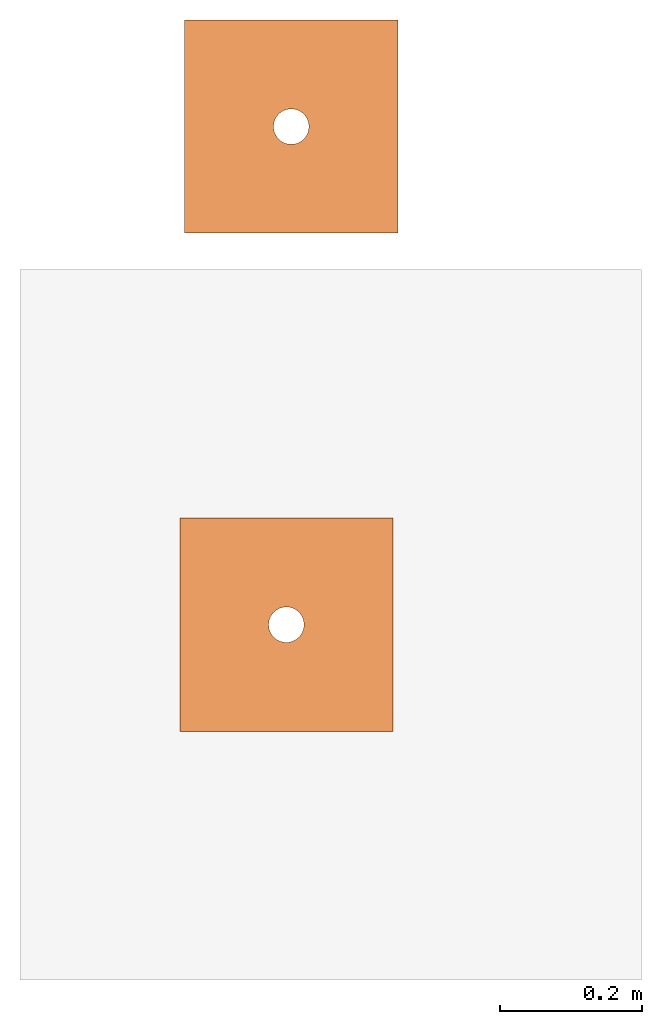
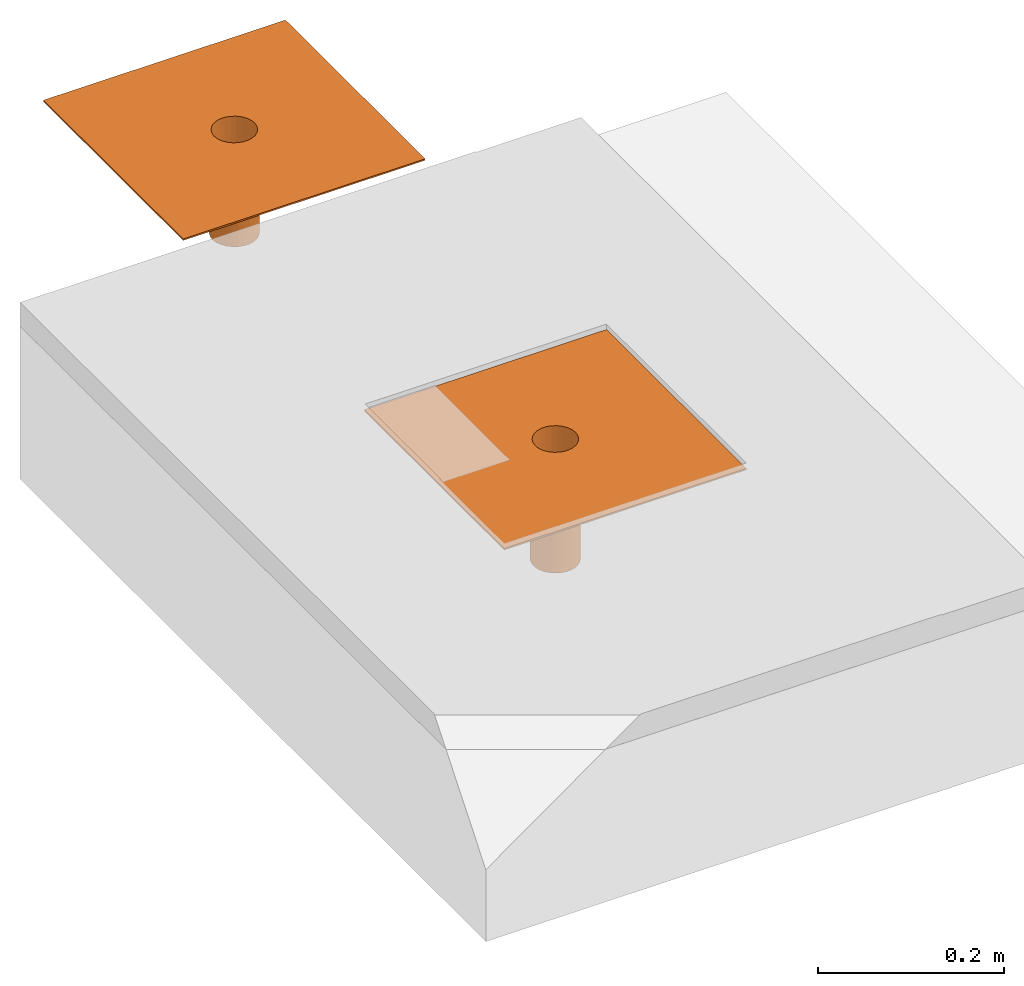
# One storey, part 2 of 3: 2 proxies.
"""IFC2X3 building model written with IfcOpenShell, lengths in metres."""

from ifc_helpers import new_model, entity, si_unit, converted_unit, derived_unit, direction, frame, frame_2d, origin, place, context, subcontext, project, spatial, polyline, circle_curve, parameter, trimmed, segment, composite_curve, hollow_circle, outline, extrude, source, transform, mapped, material, type_object, type_shapes, element, save


model = new_model("IFC2X3")

# Units and contexts
model_context = context("Model", 3, precision=1e-05, world=origin(), true_north=direction((6.123031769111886e-17, 1.0)))
body_context = subcontext(model_context, "Body", "Model", "MODEL_VIEW")
ifc_project = project(units=[si_unit("LENGTHUNIT", "METRE"), si_unit("AREAUNIT", "SQUARE_METRE"), si_unit("VOLUMEUNIT", "CUBIC_METRE"), converted_unit("PLANEANGLEUNIT", "DEGREE", entity("IfcRatioMeasure", 0.017453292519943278), si_unit("PLANEANGLEUNIT", "RADIAN"), dimensions=[0, 0, 0, 0, 0, 0, 0]), si_unit("MASSUNIT", "GRAM", prefix="KILO"), derived_unit("MASSDENSITYUNIT", [(si_unit("MASSUNIT", "GRAM", prefix="KILO"), 1), (si_unit("LENGTHUNIT", "METRE"), -3)]), derived_unit("IONCONCENTRATIONUNIT", [(si_unit("MASSUNIT", "GRAM", prefix="KILO"), 1), (si_unit("LENGTHUNIT", "METRE"), -3)]), derived_unit("MOMENTOFINERTIAUNIT", [(si_unit("LENGTHUNIT", "METRE"), 4)]), si_unit("TIMEUNIT", "SECOND"), si_unit("FREQUENCYUNIT", "HERTZ"), si_unit("THERMODYNAMICTEMPERATUREUNIT", "DEGREE_CELSIUS"), derived_unit("THERMALTRANSMITTANCEUNIT", [(si_unit("MASSUNIT", "GRAM", prefix="KILO"), 1), (si_unit("THERMODYNAMICTEMPERATUREUNIT", "KELVIN"), -1), (si_unit("TIMEUNIT", "SECOND"), -3)]), derived_unit("THERMALCONDUCTANCEUNIT", [(si_unit("MASSUNIT", "GRAM", prefix="KILO"), 1), (si_unit("THERMODYNAMICTEMPERATUREUNIT", "KELVIN"), -1), (si_unit("TIMEUNIT", "SECOND"), -3), (si_unit("LENGTHUNIT", "METRE"), 1)]), derived_unit("VOLUMETRICFLOWRATEUNIT", [(si_unit("LENGTHUNIT", "METRE"), 3), (si_unit("TIMEUNIT", "SECOND"), -1)]), derived_unit("MASSFLOWRATEUNIT", [(si_unit("MASSUNIT", "GRAM", prefix="KILO"), 1), (si_unit("TIMEUNIT", "SECOND"), -1)]), derived_unit("ROTATIONALFREQUENCYUNIT", [(si_unit("TIMEUNIT", "SECOND"), -1)]), si_unit("ELECTRICCURRENTUNIT", "AMPERE"), si_unit("ELECTRICVOLTAGEUNIT", "VOLT"), si_unit("POWERUNIT", "WATT"), si_unit("FORCEUNIT", "NEWTON", prefix="KILO"), si_unit("ILLUMINANCEUNIT", "LUX"), si_unit("LUMINOUSFLUXUNIT", "LUMEN"), si_unit("LUMINOUSINTENSITYUNIT", "CANDELA"), derived_unit("USERDEFINED", [(si_unit("MASSUNIT", "GRAM", prefix="KILO"), -1), (si_unit("LENGTHUNIT", "METRE"), -2), (si_unit("TIMEUNIT", "SECOND"), 3), (si_unit("LUMINOUSFLUXUNIT", "LUMEN"), 1)]), derived_unit("USERDEFINED", [(si_unit("MASSUNIT", "GRAM", prefix="KILO"), 1), (si_unit("TIMEUNIT", "SECOND"), -3), (si_unit("LENGTHUNIT", "METRE"), 3), (si_unit("ELECTRICCURRENTUNIT", "AMPERE"), -2)]), derived_unit("SOUNDPOWERUNIT", [(si_unit("MASSUNIT", "GRAM", prefix="KILO"), 1), (si_unit("TIMEUNIT", "SECOND"), -3), (si_unit("LENGTHUNIT", "METRE"), 2)]), derived_unit("SOUNDPRESSUREUNIT", [(si_unit("MASSUNIT", "GRAM", prefix="KILO"), 1), (si_unit("LENGTHUNIT", "METRE"), -1), (si_unit("TIMEUNIT", "SECOND"), -2)]), derived_unit("LINEARVELOCITYUNIT", [(si_unit("LENGTHUNIT", "METRE"), 1), (si_unit("TIMEUNIT", "SECOND"), -1)]), si_unit("PRESSUREUNIT", "PASCAL"), derived_unit("USERDEFINED", [(si_unit("MASSUNIT", "GRAM", prefix="KILO"), 1), (si_unit("LENGTHUNIT", "METRE"), -2), (si_unit("TIMEUNIT", "SECOND"), -2)]), derived_unit("LINEARFORCEUNIT", [(si_unit("MASSUNIT", "GRAM", prefix="KILO"), 1), (si_unit("TIMEUNIT", "SECOND"), -2)]), derived_unit("PLANARFORCEUNIT", [(si_unit("MASSUNIT", "GRAM", prefix="KILO"), 1), (si_unit("LENGTHUNIT", "METRE"), -1), (si_unit("TIMEUNIT", "SECOND"), -2)]), derived_unit("SPECIFICHEATCAPACITYUNIT", [(si_unit("THERMODYNAMICTEMPERATUREUNIT", "KELVIN"), -1), (si_unit("LENGTHUNIT", "METRE"), 2), (si_unit("TIMEUNIT", "SECOND"), -2)]), derived_unit("HEATINGVALUEUNIT", [(si_unit("LENGTHUNIT", "METRE"), 2), (si_unit("TIMEUNIT", "SECOND"), -2)]), derived_unit("VAPORPERMEABILITYUNIT", [(si_unit("LENGTHUNIT", "METRE"), -1), (si_unit("TIMEUNIT", "SECOND"), 1)]), derived_unit("DYNAMICVISCOSITYUNIT", [(si_unit("MASSUNIT", "GRAM", prefix="KILO"), 1), (si_unit("TIMEUNIT", "SECOND"), -1), (si_unit("LENGTHUNIT", "METRE"), -1)]), derived_unit("THERMALEXPANSIONCOEFFICIENTUNIT", [(si_unit("THERMODYNAMICTEMPERATUREUNIT", "KELVIN"), -1)]), derived_unit("MODULUSOFELASTICITYUNIT", [(si_unit("MASSUNIT", "GRAM", prefix="KILO"), 1), (si_unit("LENGTHUNIT", "METRE"), -1), (si_unit("TIMEUNIT", "SECOND"), -2)]), derived_unit("ISOTHERMALMOISTURECAPACITYUNIT", [(si_unit("LENGTHUNIT", "METRE"), 3), (si_unit("MASSUNIT", "GRAM", prefix="KILO"), -1)]), derived_unit("MOISTUREDIFFUSIVITYUNIT", [(si_unit("TIMEUNIT", "SECOND"), -1), (si_unit("LENGTHUNIT", "METRE"), 2)])], contexts=[model_context])

# Site, building, storey
site_placement = place(None, origin())
site = spatial("IfcSite", under=ifc_project, at=site_placement, Name="Default", CompositionType="ELEMENT")
building_placement = place(site_placement, origin())
building = spatial("IfcBuilding", under=site, at=building_placement, CompositionType="ELEMENT")
storey_placement = place(building_placement, frame((0.0, 0.0, -0.0025237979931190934)))
storey = spatial("IfcBuildingStorey", under=building, at=storey_placement, Name="ARQ Térreo", CompositionType="ELEMENT", Elevation=-0.0025237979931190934)

# Proxies
ifc_material = material(Name="_Viaboc")
building_element_proxy_type_1 = type_object("IfcBuildingElementProxyType", Name="Viaboc Ralo 50mm:Viaboc Ralo 50mm", PredefinedType="NOTDEFINED", material=ifc_material)
shared_shape_1 = source(origin(), body_context, "Body", "SweptSolid", [
    extrude(hollow_circle(Radius=0.027, WallThickness=0.0019999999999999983, at=frame_2d((1.3964410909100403e-19, -2.894230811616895e-16), x_axis=(1.0, 0.0))), frame((0.0, 0.0, -0.133)), (0.0, 0.0, 1.0), 0.133),
    extrude(outline(polyline([(-0.14999999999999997, -0.14999999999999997), (0.14999999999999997, -0.14999999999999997), (0.14999999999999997, 0.14999999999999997), (-0.14999999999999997, 0.14999999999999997), (-0.14999999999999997, -0.14999999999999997)]), holes=[composite_curve([segment(trimmed(circle_curve(frame_2d((0.0, 0.0), x_axis=(-1.0, 0.0)), 0.025), [parameter(3.053332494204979e-13)], [parameter(180.0)], True, "PARAMETER"), False, "CONTINUOUS"), segment(trimmed(circle_curve(frame_2d((0.0, 0.0), x_axis=(-1.0, 0.0)), 0.025), [parameter(179.99999999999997)], [parameter(0.0)], True, "PARAMETER"), False, "CONTINUOUS")], self_intersect=False)]), frame((0.0, 0.0, 0.0), z_axis=(0.0, 0.0, 1.0), x_axis=(-1.0, 0.0, 0.0)), (0.0, 0.0, 1.0), 0.0019999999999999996),
])
type_shapes(building_element_proxy_type_1, [shared_shape_1])
proxy_1_placement = place(storey_placement, frame((0.9295519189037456, -0.5369387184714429, 0.0)))
element("IfcBuildingElementProxy", 1, at=proxy_1_placement, inside=storey, type_object=building_element_proxy_type_1, material=ifc_material, Name="Viaboc Ralo 50mm:Viaboc Ralo 50mm", ObjectType="Viaboc Ralo 50mm:Viaboc Ralo 50mm", context=body_context, shape_type="MappedRepresentation", body=[
    mapped(shared_shape_1, transform((0.0, 0.0, 0.0), scale=1.0)),
])
building_element_proxy_type_2 = type_object("IfcBuildingElementProxyType", Name="Modelos genéricos 1:Modelos genéricos 1", PredefinedType="NOTDEFINED", material=ifc_material)
shared_shape_2 = source(origin(), body_context, "Body", "SweptSolid", [
    extrude(hollow_circle(Radius=0.027, WallThickness=0.0019999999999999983, at=frame_2d((0.0, -2.707167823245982e-16), x_axis=(1.0, 0.0))), frame((0.9226644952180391, -1.2379912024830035, -0.1355237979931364)), (0.0, 0.0, 1.0), 0.1549299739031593),
    extrude(outline(polyline([(-0.15000000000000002, -0.15000000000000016), (0.15000000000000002, -0.15000000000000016), (0.15000000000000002, 0.15000000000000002), (-0.15000000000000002, 0.15000000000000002), (-0.15000000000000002, -0.15000000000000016)]), holes=[composite_curve([segment(trimmed(circle_curve(frame_2d((0.0, 0.0), x_axis=(-1.0, 0.0)), 0.025), [parameter(1.2213329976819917e-12)], [parameter(179.99999999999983)], True, "PARAMETER"), False, "CONTINUOUS"), segment(trimmed(circle_curve(frame_2d((0.0, 0.0), x_axis=(-1.0, 0.0)), 0.025), [parameter(180.00000000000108)], [parameter(6.106664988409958e-13)], True, "PARAMETER"), False, "CONTINUOUS")], self_intersect=False)]), frame((0.9226644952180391, -1.2379912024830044, 0.01940617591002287), z_axis=(0.0, 0.0, 1.0), x_axis=(-1.0, 0.0, 0.0)), (0.0, 0.0, 1.0), 0.002073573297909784),
])
type_shapes(building_element_proxy_type_2, [shared_shape_2])
proxy_2_placement = place(storey_placement, frame((0.0, 0.0, 0.0025237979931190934)))
element("IfcBuildingElementProxy", 2, at=proxy_2_placement, inside=storey, type_object=building_element_proxy_type_2, material=ifc_material, Name="Modelos genéricos 1:Modelos genéricos 1", ObjectType="Modelos genéricos 1:Modelos genéricos 1", context=body_context, shape_type="MappedRepresentation", body=[
    mapped(shared_shape_2, transform((0.0, 0.0, 0.0), scale=1.0)),
])

save(model, "model.ifc")
